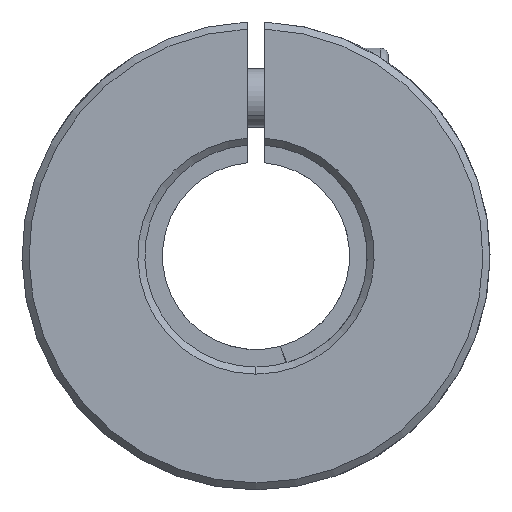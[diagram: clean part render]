
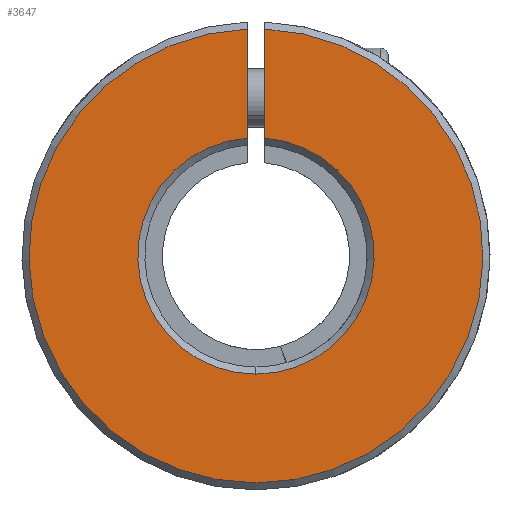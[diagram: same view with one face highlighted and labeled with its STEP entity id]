
A CAD part, front view. The second image highlights one B-rep face of the part: STEP entity #3647.
In plain terms, the highlighted planar face has unit normal (0, -1, 0).
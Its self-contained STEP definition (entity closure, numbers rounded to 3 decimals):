
#280 = CARTESIAN_POINT ( 'NONE',  ( 0.75, -25., 10.072 ) ) ;
#351 = CIRCLE ( 'NONE', #5798, 19.4 ) ;
#491 = CARTESIAN_POINT ( 'NONE',  ( 0., -25., 0. ) ) ;
#588 = VERTEX_POINT ( 'NONE', #4596 ) ;
#597 = VECTOR ( 'NONE', #3016, 1000. ) ;
#639 = DIRECTION ( 'NONE',  ( 0., 0., 1. ) ) ;
#665 = CIRCLE ( 'NONE', #2358, 10.1 ) ;
#714 = CARTESIAN_POINT ( 'NONE',  ( 0., -25., 0. ) ) ;
#1016 = FACE_OUTER_BOUND ( 'NONE', #1471, .T. ) ;
#1047 = DIRECTION ( 'NONE',  ( 0., 0., 1. ) ) ;
#1125 = CIRCLE ( 'NONE', #3186, 10.1 ) ;
#1206 = CARTESIAN_POINT ( 'NONE',  ( -0.75, -25., 19.385 ) ) ;
#1273 = LINE ( 'NONE', #2178, #3004 ) ;
#1327 = ORIENTED_EDGE ( 'NONE', *, *, #2154, .T. ) ;
#1351 = VERTEX_POINT ( 'NONE', #1206 ) ;
#1468 = CARTESIAN_POINT ( 'NONE',  ( 0., -25., 0. ) ) ;
#1471 = EDGE_LOOP ( 'NONE', ( #2863, #3222, #4386, #1327, #3820 ) ) ;
#1863 = AXIS2_PLACEMENT_3D ( 'NONE', #3264, #2271, #1047 ) ;
#2154 = EDGE_CURVE ( 'NONE', #5736, #1351, #3477, .T. ) ;
#2178 = CARTESIAN_POINT ( 'NONE',  ( 0.75, -25., -4. ) ) ;
#2271 = DIRECTION ( 'NONE',  ( 0., 1., 0. ) ) ;
#2275 = DIRECTION ( 'NONE',  ( 0., 1., 0. ) ) ;
#2282 = VERTEX_POINT ( 'NONE', #3613 ) ;
#2358 = AXIS2_PLACEMENT_3D ( 'NONE', #1468, #5544, #639 ) ;
#2484 = EDGE_CURVE ( 'NONE', #588, #5736, #665, .T. ) ;
#2508 = DIRECTION ( 'NONE',  ( 0., -1., 0. ) ) ;
#2691 = DIRECTION ( 'NONE',  ( 0., 0., 1. ) ) ;
#2863 = ORIENTED_EDGE ( 'NONE', *, *, #4904, .T. ) ;
#3004 = VECTOR ( 'NONE', #3217, 1000. ) ;
#3016 = DIRECTION ( 'NONE',  ( 0., 0., 1. ) ) ;
#3128 = VERTEX_POINT ( 'NONE', #280 ) ;
#3169 = EDGE_CURVE ( 'NONE', #1351, #2282, #351, .T. ) ;
#3186 = AXIS2_PLACEMENT_3D ( 'NONE', #491, #2275, #2691 ) ;
#3217 = DIRECTION ( 'NONE',  ( 0., 0., -1. ) ) ;
#3222 = ORIENTED_EDGE ( 'NONE', *, *, #4153, .T. ) ;
#3264 = CARTESIAN_POINT ( 'NONE',  ( 0., -25., 0. ) ) ;
#3477 = LINE ( 'NONE', #5460, #597 ) ;
#3613 = CARTESIAN_POINT ( 'NONE',  ( 0.75, -25., 19.385 ) ) ;
#3647 = ADVANCED_FACE ( 'NONE', ( #1016 ), #4138, .F. ) ;
#3820 = ORIENTED_EDGE ( 'NONE', *, *, #3169, .T. ) ;
#3854 = DIRECTION ( 'NONE',  ( 0., 0., 1. ) ) ;
#4138 = PLANE ( 'NONE',  #1863 ) ;
#4153 = EDGE_CURVE ( 'NONE', #3128, #588, #1125, .T. ) ;
#4386 = ORIENTED_EDGE ( 'NONE', *, *, #2484, .T. ) ;
#4438 = CARTESIAN_POINT ( 'NONE',  ( -0.75, -25., 10.072 ) ) ;
#4596 = CARTESIAN_POINT ( 'NONE',  ( 0., -25., -10.1 ) ) ;
#4904 = EDGE_CURVE ( 'NONE', #2282, #3128, #1273, .T. ) ;
#5460 = CARTESIAN_POINT ( 'NONE',  ( -0.75, -25., -4. ) ) ;
#5544 = DIRECTION ( 'NONE',  ( 0., 1., 0. ) ) ;
#5736 = VERTEX_POINT ( 'NONE', #4438 ) ;
#5798 = AXIS2_PLACEMENT_3D ( 'NONE', #714, #2508, #3854 ) ;
